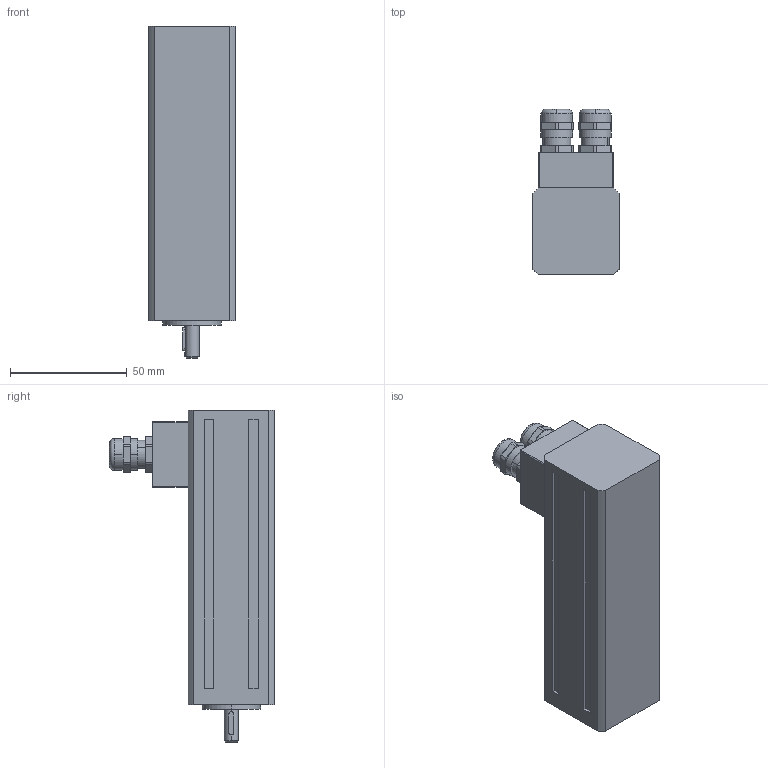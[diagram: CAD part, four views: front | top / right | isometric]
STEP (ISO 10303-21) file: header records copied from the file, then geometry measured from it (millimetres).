
FILE_DESCRIPTION(('STEP AP203'),'2;1');
FILE_NAME('MT1-0020_B.stp','2006-08-28T19:54:05',(''),(''),'2005.2.102','THINKDESIGN','');
FILE_SCHEMA(('CONFIG_CONTROL_DESIGN'));
Length unit declared in the file: millimetre
Bounding box: 37 x 70.6 x 142 mm (x, y, z)
Volume: 185243.9 mm3; surface area: 29767.7 mm2
Topology: 5 solids, 5 shells, 192 faces, 461 edges, 298 vertices
Faces by surface type: plane 82, cylinder 66, bspline 44
Entity records: 5950 total; most frequent: CARTESIAN_POINT 1399, DIRECTION 939, ORIENTED_EDGE 906, EDGE_CURVE 453, AXIS2_PLACEMENT_3D 342, VERTEX_POINT 298, VECTOR 255, LINE 255
